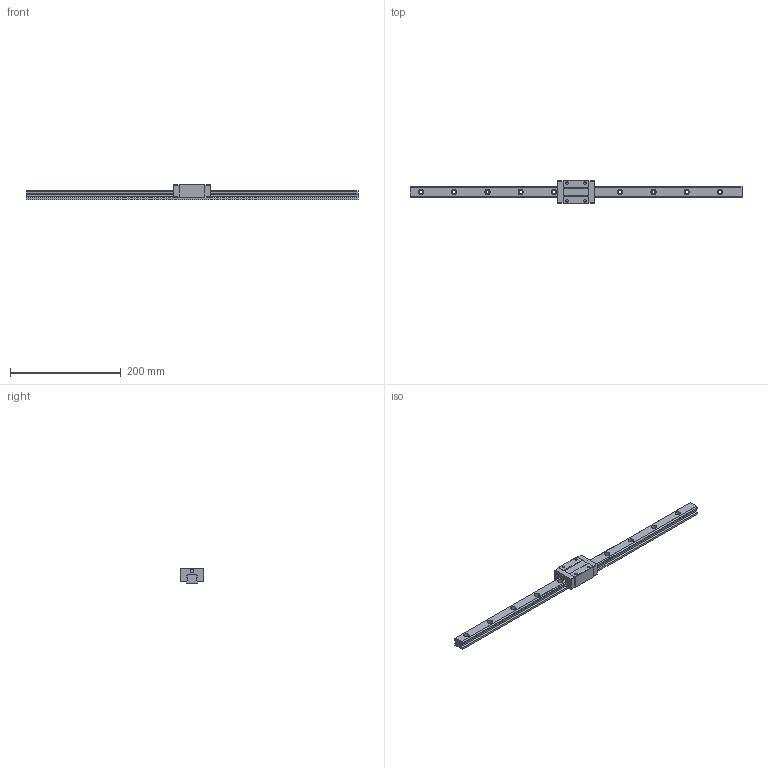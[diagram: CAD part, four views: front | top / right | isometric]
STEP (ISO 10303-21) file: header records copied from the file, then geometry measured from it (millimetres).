
FILE_DESCRIPTION (( 'STEP AP203' ), '1' );
FILE_NAME ('TRS20VN-XNC.STEP', '2024-08-16T07:17:08', ( '' ), ( '' ), 'SwSTEP 2.0', 'SolidWorks 2021', '' );
FILE_SCHEMA (( 'CONFIG_CONTROL_DESIGN' ));
Length unit declared in the file: millimetre
Products named in the file (1): TRS20VN-XNC
Bounding box: 600 x 42 x 28 mm (x, y, z)
Volume: 217922.1 mm3; surface area: 60115.7 mm2
Topology: 1 solids, 1 shells, 177 faces, 476 edges, 314 vertices
Faces by surface type: plane 89, cylinder 88
Entity records: 5709 total; most frequent: DIRECTION 1010, CARTESIAN_POINT 968, ORIENTED_EDGE 952, EDGE_CURVE 476, AXIS2_PLACEMENT_3D 356, VERTEX_POINT 314, LINE 298, VECTOR 298
